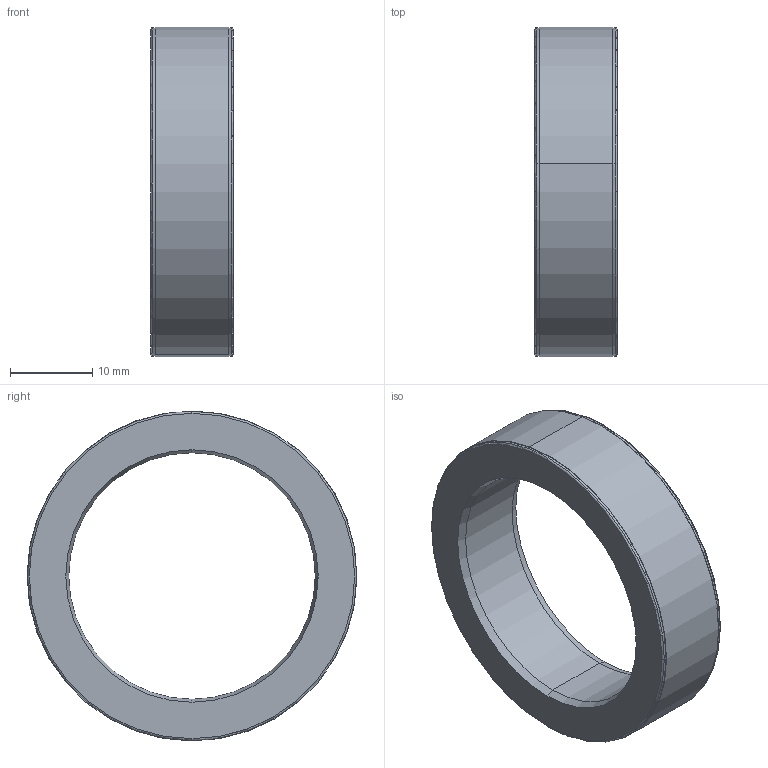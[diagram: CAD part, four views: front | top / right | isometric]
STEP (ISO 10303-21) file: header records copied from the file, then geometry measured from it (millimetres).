
FILE_DESCRIPTION (( 'STEP AP214' ), '1' );
FILE_NAME ('MR040U030.STEP', '2021-09-21T13:26:27', ( '' ), ( '' ), 'SwSTEP 2.0', 'SolidWorks 2020', '' );
FILE_SCHEMA (( 'AUTOMOTIVE_DESIGN' ));
Length unit declared in the file: millimetre
Products named in the file (1): MR040U030
Bounding box: 10 x 40.15 x 40.15 mm (x, y, z)
Volume: 5545.7 mm3; surface area: 3247.8 mm2
Topology: 1 solids, 1 shells, 426 faces, 1133 edges, 754 vertices
Faces by surface type: plane 251, bspline 147, cylinder 20, torus 4, cone 4
Entity records: 24591 total; most frequent: CARTESIAN_POINT 10253, ORIENTED_EDGE 2266, DIRECTION 1455, EDGE_CURVE 1133, LINE 783, VECTOR 783, VERTEX_POINT 754, EDGE_LOOP 473
